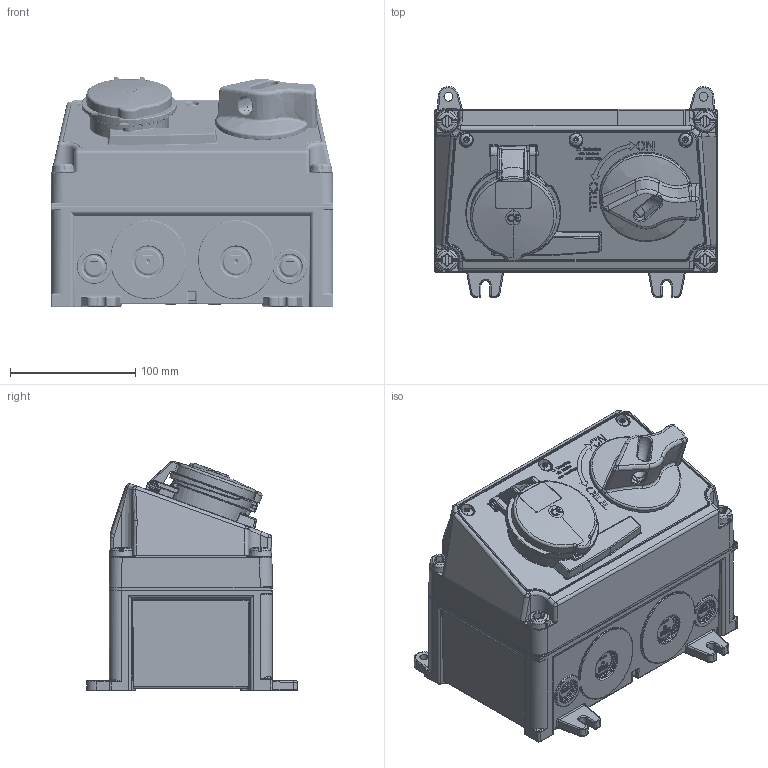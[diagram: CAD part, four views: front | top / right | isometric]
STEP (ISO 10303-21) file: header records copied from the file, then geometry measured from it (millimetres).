
FILE_DESCRIPTION((''),'2;1');
FILE_NAME('7607-0_ASM','2018-06-06T',('menccconvadm'),('MENNEKES'),'PRO/ENGINEER BY PARAMETRIC TECHNOLOGY CORPORATION, 2015440','PRO/ENGINEER BY PARAMETRIC TECHNOLOGY CORPORATION, 2015440','');
FILE_SCHEMA(('AUTOMOTIVE_DESIGN { 1 0 10303 214 1 1 1 1 }'));
Products named in the file (22): 1-4_SW_O_GRAU; PLATZHALTER_GKS2; PLATZHALTER_GKS3; PLATZHALTER_GKS4; PLATZHALTER_GKS5; PLATZHALTER_GKS6; PLATZHALTER_GKS7; PLATZHALTER_GKS8; PLATZHALTER_GKS9; PLATZHALTER_GKS10; PLATZHALTER_GKS11; PLATZHALTER_GKS12; PLATZHALTER_GKS13; PLATZHALTER_GKS14; PLATZHALTER_GKS15; PLATZHALTER_GKS16; PLATZHALTER_GKS17; PLATZHALTER_GKS18; PLATZHALTER_GKS19; PLATZHALTER_GKS20; MP_DUO_16_5_44_ROT_GRAU; 7607-0_ASM
Assembly tree (21 placements, depth 2):
  7607-0_ASM
    1-4_SW_O_GRAU
    PLATZHALTER_GKS2
    PLATZHALTER_GKS3
    PLATZHALTER_GKS4
    PLATZHALTER_GKS5
    PLATZHALTER_GKS6
    PLATZHALTER_GKS7
    PLATZHALTER_GKS8
    PLATZHALTER_GKS9
    PLATZHALTER_GKS10
    PLATZHALTER_GKS11
    PLATZHALTER_GKS12
    PLATZHALTER_GKS13
    PLATZHALTER_GKS14
    PLATZHALTER_GKS15
    PLATZHALTER_GKS16
    PLATZHALTER_GKS17
    PLATZHALTER_GKS18
    PLATZHALTER_GKS19
    PLATZHALTER_GKS20
    MP_DUO_16_5_44_ROT_GRAU
Bounding box: 225 x 168.2 x 182.91 mm (x, y, z)
Volume: 2932365.6 mm3; surface area: 346874 mm2
Topology: 2 solids, 2 shells, 6099 faces, 15746 edges, 9840 vertices
Faces by surface type: plane 3283, cylinder 1102, bspline 879, torus 482, cone 177, sphere 162, extrusion 14
Entity records: 281675 total; most frequent: CARTESIAN_POINT 93387, ORIENTED_EDGE 31456, DIRECTION 26860, EDGE_CURVE 15728, VERTEX_POINT 9838, VECTOR 9834, LINE 9820, AXIS2_PLACEMENT_3D 8513
